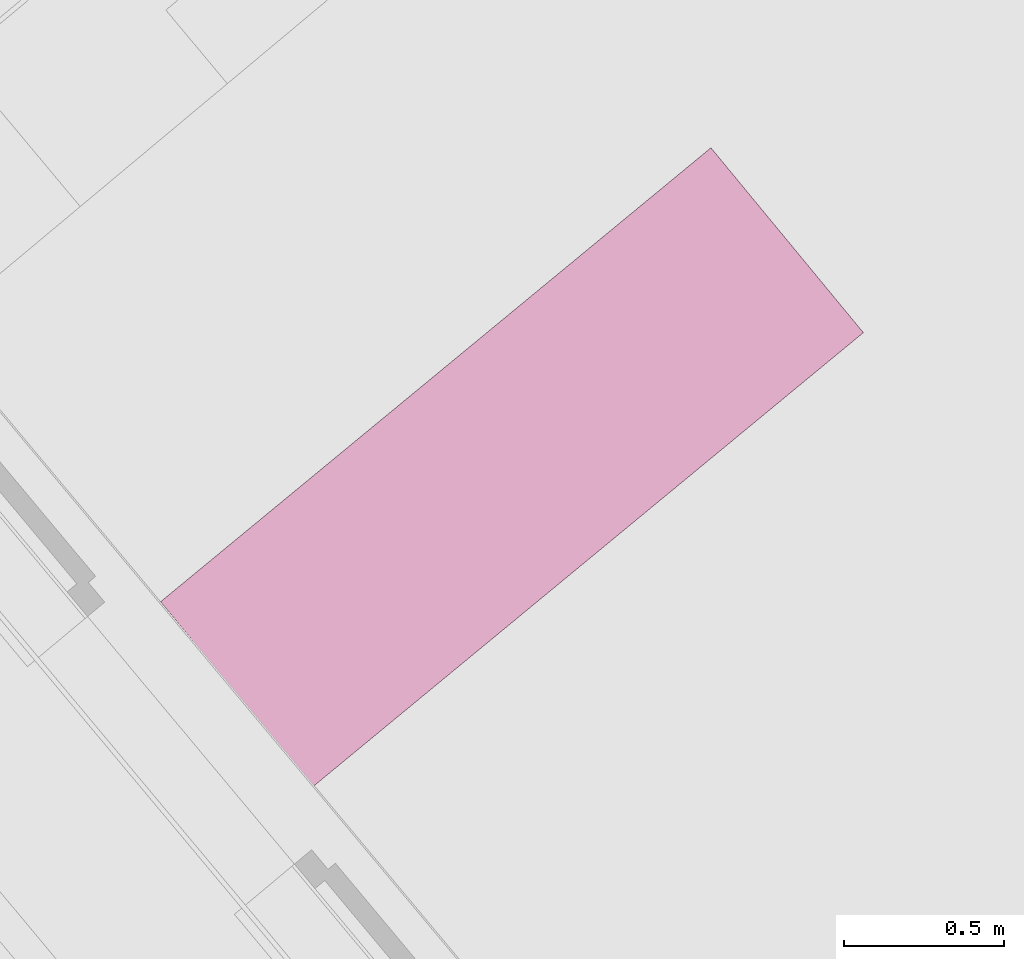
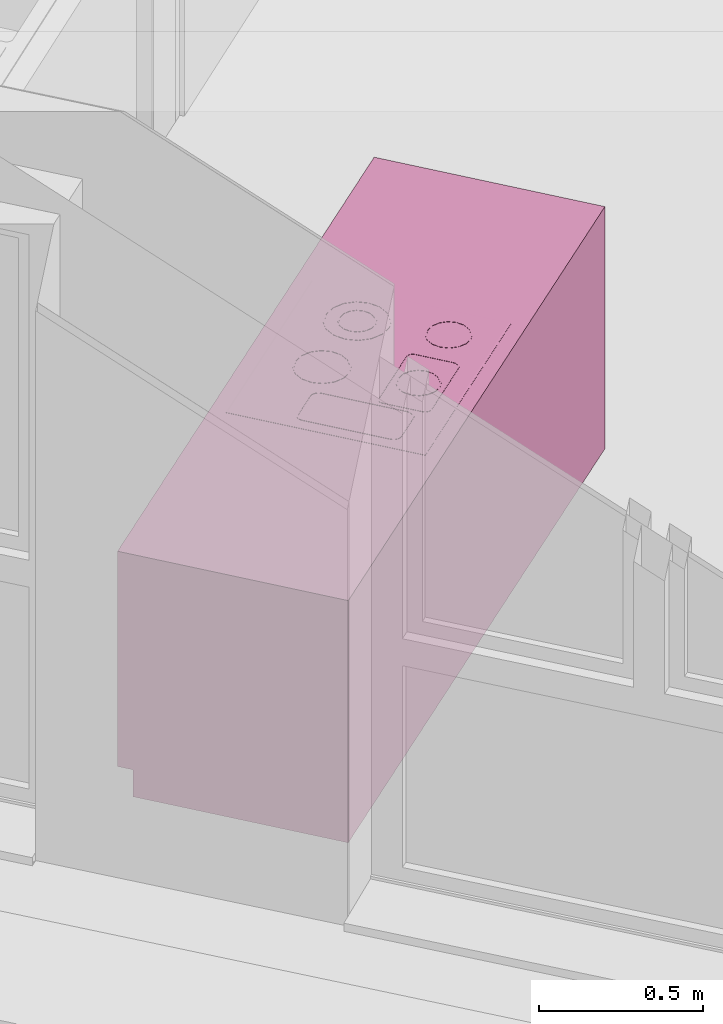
# One storey, part 58 of 61: 1 furniture element.
"""IFC4 building model written with IfcOpenShell, lengths in metres."""

from ifc_helpers import new_model, entity, si_unit, converted_unit, derived_unit, direction, frame, origin_with_axes, place, context, subcontext, project, spatial, polygons, source, transform, mapped, type_object, element, save


model = new_model("IFC4")

# Units and contexts
model_context = context("Model", 3, precision=1e-05, world=origin_with_axes(), true_north=direction((0.0, 1.0)))
body_context = subcontext(model_context, "Body", "Model", "MODEL_VIEW")
ifc_project = project(units=[si_unit("LENGTHUNIT", "METRE"), si_unit("AREAUNIT", "SQUARE_METRE"), si_unit("VOLUMEUNIT", "CUBIC_METRE"), converted_unit("PLANEANGLEUNIT", "DEGREE", entity("IfcPlaneAngleMeasure", 0.0174532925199), si_unit("PLANEANGLEUNIT", "RADIAN"), dimensions=[0, 0, 0, 0, 0, 0, 0]), converted_unit("TIMEUNIT", "Year", entity("IfcTimeMeasure", 31556926.0), si_unit("TIMEUNIT", "SECOND"), dimensions=[0, 0, 1, 0, 0, 0, 0]), si_unit("MASSUNIT", "GRAM", prefix="KILO"), si_unit("THERMODYNAMICTEMPERATUREUNIT", "DEGREE_CELSIUS"), si_unit("LUMINOUSINTENSITYUNIT", "LUMEN"), si_unit("ENERGYUNIT", "JOULE", prefix="MEGA"), derived_unit("THERMALCONDUCTANCEUNIT", [(si_unit("POWERUNIT", "WATT"), 1), (si_unit("LENGTHUNIT", "METRE"), -1), (si_unit("THERMODYNAMICTEMPERATUREUNIT", "KELVIN"), -1)]), derived_unit("SPECIFICHEATCAPACITYUNIT", [(si_unit("ENERGYUNIT", "JOULE"), 1), (si_unit("MASSUNIT", "GRAM", prefix="KILO"), -1), (si_unit("THERMODYNAMICTEMPERATUREUNIT", "KELVIN"), -1)]), derived_unit("MASSDENSITYUNIT", [(si_unit("MASSUNIT", "GRAM", prefix="KILO"), 1), (si_unit("VOLUMEUNIT", "CUBIC_METRE"), -1)])], contexts=[model_context])

# Site, building, storey, space
site_placement = place(None, frame((-0.00153261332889, -0.00661245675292, 0.0), z_axis=(0.0, 0.0, 1.0), x_axis=(1.0, 0.0, 0.0)))
site = spatial("IfcSite", under=ifc_project, at=site_placement, Name="Gelände", CompositionType="ELEMENT")
building_placement = place(site_placement, origin_with_axes())
building = spatial("IfcBuilding", under=site, at=building_placement, Name="Gebäude", CompositionType="ELEMENT")
storey_placement = place(building_placement, frame((0.0, 0.0, 5.7), z_axis=(0.0, 0.0, 1.0), x_axis=(1.0, 0.0, 0.0)))
storey = spatial("IfcBuildingStorey", under=building, at=storey_placement, Name="DG1", CompositionType="ELEMENT", Elevation=5.7)
space_placement = place(storey_placement, frame((-1.20514111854, 10.7241437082, 0.22), z_axis=(0.0, 0.0, 1.0), x_axis=(0.766948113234, 0.641709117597, 0.0)))
space = spatial("IfcSpace", under=storey, at=space_placement, CompositionType="ELEMENT", PredefinedType="NOTDEFINED")

# Furniture
furniture_type = type_object("IfcFurnitureType", Name="Konzeptküche 26", AssemblyPlace="NOTDEFINED", PredefinedType="NOTDEFINED")
shared_shape = source(origin_with_axes(), body_context, "Body", "Tessellation", [
    polygons([(0.451386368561, 0.0111886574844, 0.0), (2.6840690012, -0.00300580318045, 0.0), (2.6840690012, -0.00300580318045, 0.1), (0.451386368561, 0.0111886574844, 0.1), (0.455836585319, 0.711174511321, 0.0), (2.68851921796, 0.696980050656, 0.0), (2.68851921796, 0.696980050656, 0.1), (0.455836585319, 0.711174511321, 0.1)], [[[1, 2, 3, 4]], [[1, 5, 6, 2]], [[2, 6, 7, 3]], [[4, 3, 7, 8]], [[5, 1, 4, 8]], [[6, 5, 8, 7]]], closed=True),
    polygons([(0.451386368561, 0.0111886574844, 0.85), (2.6840690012, -0.00300580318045, 0.85), (2.6840690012, -0.00300580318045, 0.9), (0.451386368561, 0.0111886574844, 0.9), (0.456154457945, 0.76117350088, 0.85), (2.68883709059, 0.746979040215, 0.85), (2.68883709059, 0.746979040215, 0.9), (0.456154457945, 0.76117350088, 0.9)], [[[1, 2, 3, 4]], [[1, 5, 6, 2]], [[2, 6, 7, 3]], [[4, 3, 7, 8]], [[5, 1, 4, 8]], [[6, 5, 8, 7]]], closed=True),
    polygons([(0.451386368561, 0.0111886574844, 0.1), (2.6840690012, -0.00300580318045, 0.1), (2.6840690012, -0.00300580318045, 0.85), (0.451386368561, 0.0111886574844, 0.85), (0.456154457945, 0.76117350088, 0.1), (2.68883709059, 0.746979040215, 0.1), (2.68883709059, 0.746979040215, 0.85), (0.456154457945, 0.76117350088, 0.85)], [[[1, 2, 3, 4]], [[1, 5, 6, 2]], [[2, 6, 7, 3]], [[4, 3, 7, 8]], [[5, 1, 4, 8]], [[6, 5, 8, 7]]], closed=True),
    polygons([(2.01007115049, 0.701293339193, 0.9), (2.00593880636, 0.0513064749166, 0.9), (1.25595396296, 0.0560745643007, 0.9), (1.26008630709, 0.706061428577, 0.9), (2.01007115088, 0.70129333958, 0.9008), (2.00593880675, 0.0513064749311, 0.9008), (1.25595396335, 0.0560745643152, 0.9008), (1.26008630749, 0.706061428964, 0.9008), (2.00322248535, 0.694531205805, 0.901999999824), (1.99917667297, 0.0581551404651, 0.901999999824), (1.26280262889, 0.0628366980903, 0.901999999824), (1.26684844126, 0.69921276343, 0.901999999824)], [[[1, 2, 3, 4]], [[2, 1, 5, 6]], [[3, 2, 6, 7]], [[4, 3, 7, 8]], [[1, 4, 8, 5]], [[6, 5, 9, 10]], [[7, 6, 10, 11]], [[8, 7, 11, 12]], [[5, 8, 12, 9]], [[11, 10, 9, 12]]], closed=True),
    polygons([(1.95268579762, 0.208298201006, 0.902), (1.94734355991, 0.236077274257, 0.902), (1.94734355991, 0.236077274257, 0.903), (1.95268579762, 0.208298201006, 0.903), (1.9469907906, 0.180589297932, 0.902), (1.93112555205, 0.157168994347, 0.902), (1.9075054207, 0.141602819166, 0.902), (1.87972634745, 0.136260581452, 0.902), (1.85201744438, 0.141955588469, 0.902), (1.82859714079, 0.157820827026, 0.902), (1.81303096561, 0.181440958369, 0.902), (1.8076887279, 0.20922003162, 0.902), (1.81338373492, 0.236928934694, 0.902), (1.82924897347, 0.260349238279, 0.902), (1.85286910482, 0.275915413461, 0.902), (1.88064817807, 0.281257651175, 0.902), (1.90835708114, 0.275562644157, 0.902), (1.93177738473, 0.259697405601, 0.902), (1.94768589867, 0.208329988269, 0.902), (1.94271209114, 0.234193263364, 0.902), (1.92821944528, 0.256184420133, 0.902), (1.90641433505, 0.270955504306, 0.902), (1.8806163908, 0.276257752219, 0.902), (1.85475311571, 0.271283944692, 0.902), (1.83276195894, 0.256791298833, 0.902), (1.81799087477, 0.234986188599, 0.902), (1.81268862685, 0.209188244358, 0.902), (1.81766243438, 0.183324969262, 0.902), (1.83215508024, 0.161333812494, 0.902), (1.85396019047, 0.146562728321, 0.902), (1.87975813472, 0.141260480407, 0.902), (1.90562140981, 0.146234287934, 0.902), (1.92761256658, 0.160726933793, 0.902), (1.94238365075, 0.182532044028, 0.902), (1.93177738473, 0.259697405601, 0.903), (1.90835708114, 0.275562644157, 0.903), (1.88064817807, 0.281257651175, 0.903), (1.85286910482, 0.275915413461, 0.903), (1.82924897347, 0.260349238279, 0.903), (1.81338373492, 0.236928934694, 0.903), (1.8076887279, 0.20922003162, 0.903), (1.81303096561, 0.181440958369, 0.903), (1.82859714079, 0.157820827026, 0.903), (1.85201744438, 0.141955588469, 0.903), (1.87972634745, 0.136260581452, 0.903), (1.9075054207, 0.141602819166, 0.903), (1.93112555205, 0.157168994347, 0.903), (1.9469907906, 0.180589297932, 0.903), (1.94768589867, 0.208329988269, 0.903), (1.94238365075, 0.182532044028, 0.903), (1.92761256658, 0.160726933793, 0.903), (1.90562140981, 0.146234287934, 0.903), (1.87975813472, 0.141260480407, 0.903), (1.85396019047, 0.146562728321, 0.903), (1.83215508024, 0.161333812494, 0.903), (1.81766243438, 0.183324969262, 0.903), (1.81268862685, 0.209188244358, 0.903), (1.81799087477, 0.234986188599, 0.903), (1.83276195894, 0.256791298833, 0.903), (1.85475311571, 0.271283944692, 0.903), (1.8806163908, 0.276257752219, 0.903), (1.90641433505, 0.270955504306, 0.903), (1.92821944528, 0.256184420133, 0.903), (1.94271209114, 0.234193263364, 0.903)], [[[1, 2, 3, 4]], [[1, 5, 6, 7, 8, 9, 10, 11, 12, 13, 14, 15, 16, 17, 18, 2], [19, 20, 21, 22, 23, 24, 25, 26, 27, 28, 29, 30, 31, 32, 33, 34]], [[2, 18, 35, 3]], [[4, 3, 35, 36, 37, 38, 39, 40, 41, 42, 43, 44, 45, 46, 47, 48], [49, 50, 51, 52, 53, 54, 55, 56, 57, 58, 59, 60, 61, 62, 63, 64]], [[5, 1, 4, 48]], [[6, 5, 48, 47]], [[7, 6, 47, 46]], [[8, 7, 46, 45]], [[9, 8, 45, 44]], [[10, 9, 44, 43]], [[11, 10, 43, 42]], [[12, 11, 42, 41]], [[13, 12, 41, 40]], [[14, 13, 40, 39]], [[15, 14, 39, 38]], [[16, 15, 38, 37]], [[17, 16, 37, 36]], [[18, 17, 36, 35]], [[20, 19, 49, 64]], [[21, 20, 64, 63]], [[22, 21, 63, 62]], [[23, 22, 62, 61]], [[24, 23, 61, 60]], [[25, 24, 60, 59]], [[26, 25, 59, 58]], [[27, 26, 58, 57]], [[28, 27, 57, 56]], [[29, 28, 56, 55]], [[30, 29, 55, 54]], [[31, 30, 54, 53]], [[32, 31, 53, 52]], [[33, 32, 52, 51]], [[34, 33, 51, 50]], [[19, 34, 50, 49]]], closed=True),
    polygons([(1.9127590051, 0.495207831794, 0.902), (1.90833784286, 0.518197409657, 0.902), (1.90833784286, 0.518197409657, 0.903), (1.9127590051, 0.495207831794, 0.903), (1.90804589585, 0.472276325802, 0.902), (1.89491604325, 0.452894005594, 0.902), (1.87536834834, 0.44001165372, 0.902), (1.85237877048, 0.435590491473, 0.902), (1.82944726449, 0.440303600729, 0.902), (1.81006494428, 0.453433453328, 0.902), (1.7971825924, 0.472981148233, 0.902), (1.79276143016, 0.495970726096, 0.902), (1.79747453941, 0.518902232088, 0.902), (1.81060439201, 0.538284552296, 0.902), (1.83015208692, 0.551166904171, 0.902), (1.85314166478, 0.555588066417, 0.902), (1.87607317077, 0.550874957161, 0.902), (1.89545549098, 0.537745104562, 0.902), (1.90775910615, 0.495239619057, 0.902), (1.90370637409, 0.516313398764, 0.902), (1.89189755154, 0.534232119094, 0.902), (1.87413042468, 0.546267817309, 0.902), (1.85310987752, 0.550588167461, 0.902), (1.83203609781, 0.546535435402, 0.902), (1.81411737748, 0.53472661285, 0.902), (1.80208167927, 0.516959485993, 0.902), (1.79776132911, 0.495938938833, 0.902), (1.80181406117, 0.474865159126, 0.902), (1.81362288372, 0.456946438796, 0.902), (1.83139001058, 0.444910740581, 0.902), (1.85241055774, 0.440590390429, 0.902), (1.87348433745, 0.444643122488, 0.902), (1.89140305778, 0.45645194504, 0.902), (1.90343875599, 0.474219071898, 0.902), (1.89545549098, 0.537745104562, 0.903), (1.87607317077, 0.550874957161, 0.903), (1.85314166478, 0.555588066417, 0.903), (1.83015208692, 0.551166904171, 0.903), (1.81060439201, 0.538284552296, 0.903), (1.79747453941, 0.518902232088, 0.903), (1.79276143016, 0.495970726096, 0.903), (1.7971825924, 0.472981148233, 0.903), (1.81006494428, 0.453433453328, 0.903), (1.82944726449, 0.440303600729, 0.903), (1.85237877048, 0.435590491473, 0.903), (1.87536834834, 0.44001165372, 0.903), (1.89491604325, 0.452894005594, 0.903), (1.90804589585, 0.472276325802, 0.903), (1.90775910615, 0.495239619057, 0.903), (1.90343875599, 0.474219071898, 0.903), (1.89140305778, 0.45645194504, 0.903), (1.87348433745, 0.444643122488, 0.903), (1.85241055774, 0.440590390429, 0.903), (1.83139001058, 0.444910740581, 0.903), (1.81362288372, 0.456946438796, 0.903), (1.80181406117, 0.474865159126, 0.903), (1.79776132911, 0.495938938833, 0.903), (1.80208167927, 0.516959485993, 0.903), (1.81411737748, 0.53472661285, 0.903), (1.83203609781, 0.546535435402, 0.903), (1.85310987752, 0.550588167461, 0.903), (1.87413042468, 0.546267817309, 0.903), (1.89189755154, 0.534232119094, 0.903), (1.90370637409, 0.516313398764, 0.903)], [[[1, 2, 3, 4]], [[1, 5, 6, 7, 8, 9, 10, 11, 12, 13, 14, 15, 16, 17, 18, 2], [19, 20, 21, 22, 23, 24, 25, 26, 27, 28, 29, 30, 31, 32, 33, 34]], [[2, 18, 35, 3]], [[4, 3, 35, 36, 37, 38, 39, 40, 41, 42, 43, 44, 45, 46, 47, 48], [49, 50, 51, 52, 53, 54, 55, 56, 57, 58, 59, 60, 61, 62, 63, 64]], [[5, 1, 4, 48]], [[6, 5, 48, 47]], [[7, 6, 47, 46]], [[8, 7, 46, 45]], [[9, 8, 45, 44]], [[10, 9, 44, 43]], [[11, 10, 43, 42]], [[12, 11, 42, 41]], [[13, 12, 41, 40]], [[14, 13, 40, 39]], [[15, 14, 39, 38]], [[16, 15, 38, 37]], [[17, 16, 37, 36]], [[18, 17, 36, 35]], [[20, 19, 49, 64]], [[21, 20, 64, 63]], [[22, 21, 63, 62]], [[23, 22, 62, 61]], [[24, 23, 61, 60]], [[25, 24, 60, 59]], [[26, 25, 59, 58]], [[27, 26, 58, 57]], [[28, 27, 57, 56]], [[29, 28, 56, 55]], [[30, 29, 55, 54]], [[31, 30, 54, 53]], [[32, 31, 53, 52]], [[33, 32, 52, 51]], [[34, 33, 51, 50]], [[19, 34, 50, 49]]], closed=True),
    polygons([(1.95775809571, 0.494921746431, 0.902), (1.95002106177, 0.535153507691, 0.902), (1.95002106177, 0.535153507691, 0.903), (1.95775809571, 0.494921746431, 0.903), (1.94951015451, 0.454791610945, 0.902), (1.92653291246, 0.420872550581, 0.902), (1.89232444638, 0.3983284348, 0.902), (1.85209268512, 0.39059140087, 0.902), (1.81196254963, 0.398839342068, 0.902), (1.77804348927, 0.421816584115, 0.902), (1.75549937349, 0.456025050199, 0.902), (1.74776233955, 0.496256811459, 0.902), (1.75601028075, 0.536386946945, 0.902), (1.7789875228, 0.57030600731, 0.902), (1.81319598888, 0.59285012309, 0.902), (1.85342775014, 0.60058715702, 0.902), (1.89355788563, 0.592339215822, 0.902), (1.92747694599, 0.569361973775, 0.902), (1.95275819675, 0.494953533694, 0.902), (1.94538959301, 0.533269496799, 0.902), (1.92391900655, 0.565848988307, 0.902), (1.89161513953, 0.587732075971, 0.902), (1.85339596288, 0.595587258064, 0.902), (1.81507999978, 0.588218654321, 0.902), (1.78250050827, 0.566748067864, 0.902), (1.7606174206, 0.53444420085, 0.902), (1.75276223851, 0.496225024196, 0.902), (1.76013084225, 0.457909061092, 0.902), (1.78160142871, 0.425329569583, 0.902), (1.81390529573, 0.403446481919, 0.902), (1.85212447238, 0.395591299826, 0.902), (1.89044043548, 0.402959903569, 0.902), (1.92301992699, 0.424430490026, 0.902), (1.94490301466, 0.456734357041, 0.902), (1.92747694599, 0.569361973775, 0.903), (1.89355788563, 0.592339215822, 0.903), (1.85342775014, 0.60058715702, 0.903), (1.81319598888, 0.59285012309, 0.903), (1.7789875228, 0.57030600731, 0.903), (1.75601028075, 0.536386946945, 0.903), (1.74776233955, 0.496256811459, 0.903), (1.75549937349, 0.456025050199, 0.903), (1.77804348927, 0.421816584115, 0.903), (1.81196254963, 0.398839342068, 0.903), (1.85209268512, 0.39059140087, 0.903), (1.89232444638, 0.3983284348, 0.903), (1.92653291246, 0.420872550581, 0.903), (1.94951015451, 0.454791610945, 0.903), (1.95275819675, 0.494953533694, 0.903), (1.94490301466, 0.456734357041, 0.903), (1.92301992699, 0.424430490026, 0.903), (1.89044043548, 0.402959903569, 0.903), (1.85212447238, 0.395591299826, 0.903), (1.81390529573, 0.403446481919, 0.903), (1.78160142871, 0.425329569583, 0.903), (1.76013084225, 0.457909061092, 0.903), (1.75276223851, 0.496225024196, 0.903), (1.7606174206, 0.53444420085, 0.903), (1.78250050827, 0.566748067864, 0.903), (1.81507999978, 0.588218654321, 0.903), (1.85339596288, 0.595587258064, 0.903), (1.89161513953, 0.587732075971, 0.903), (1.92391900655, 0.565848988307, 0.903), (1.94538959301, 0.533269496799, 0.903)], [[[1, 2, 3, 4]], [[1, 5, 6, 7, 8, 9, 10, 11, 12, 13, 14, 15, 16, 17, 18, 2], [19, 20, 21, 22, 23, 24, 25, 26, 27, 28, 29, 30, 31, 32, 33, 34]], [[2, 18, 35, 3]], [[4, 3, 35, 36, 37, 38, 39, 40, 41, 42, 43, 44, 45, 46, 47, 48], [49, 50, 51, 52, 53, 54, 55, 56, 57, 58, 59, 60, 61, 62, 63, 64]], [[5, 1, 4, 48]], [[6, 5, 48, 47]], [[7, 6, 47, 46]], [[8, 7, 46, 45]], [[9, 8, 45, 44]], [[10, 9, 44, 43]], [[11, 10, 43, 42]], [[12, 11, 42, 41]], [[13, 12, 41, 40]], [[14, 13, 40, 39]], [[15, 14, 39, 38]], [[16, 15, 38, 37]], [[17, 16, 37, 36]], [[18, 17, 36, 35]], [[20, 19, 49, 64]], [[21, 20, 64, 63]], [[22, 21, 63, 62]], [[23, 22, 62, 61]], [[24, 23, 61, 60]], [[25, 24, 60, 59]], [[26, 25, 59, 58]], [[27, 26, 58, 57]], [[28, 27, 57, 56]], [[29, 28, 56, 55]], [[30, 29, 55, 54]], [[31, 30, 54, 53]], [[32, 31, 53, 52]], [[33, 32, 52, 51]], [[34, 33, 51, 50]], [[19, 34, 50, 49]]], closed=True),
    polygons([(1.67867067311, 0.206790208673, 0.902), (1.67351265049, 0.233611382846, 0.902), (1.67351265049, 0.233611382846, 0.903), (1.67867067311, 0.206790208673, 0.903), (1.67317204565, 0.180036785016, 0.902), (1.65785388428, 0.157424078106, 0.902), (1.63504824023, 0.142394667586, 0.902), (1.60822706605, 0.137236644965, 0.902), (1.5814736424, 0.142735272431, 0.902), (1.55886093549, 0.158053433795, 0.902), (1.54383152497, 0.180859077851, 0.902), (1.53867350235, 0.207680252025, 0.902), (1.54417212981, 0.234433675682, 0.902), (1.55949029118, 0.257046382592, 0.902), (1.58229593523, 0.272075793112, 0.902), (1.60911710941, 0.277233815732, 0.902), (1.63587053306, 0.271735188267, 0.902), (1.65848323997, 0.256417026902, 0.902), (1.67367077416, 0.206821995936, 0.902), (1.66888118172, 0.231727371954, 0.902), (1.65492530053, 0.252904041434, 0.902), (1.63392778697, 0.267128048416, 0.902), (1.60908532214, 0.272233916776, 0.902), (1.58417994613, 0.267444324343, 0.902), (1.56300327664, 0.253488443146, 0.902), (1.54877926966, 0.232490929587, 0.902), (1.5436734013, 0.207648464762, 0.902), (1.54846299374, 0.182743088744, 0.902), (1.56241887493, 0.161566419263, 0.902), (1.58341638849, 0.147342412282, 0.902), (1.60825885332, 0.142236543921, 0.902), (1.63316422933, 0.147026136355, 0.902), (1.65434089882, 0.160982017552, 0.902), (1.6685649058, 0.181979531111, 0.902), (1.65848323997, 0.256417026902, 0.903), (1.63587053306, 0.271735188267, 0.903), (1.60911710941, 0.277233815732, 0.903), (1.58229593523, 0.272075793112, 0.903), (1.55949029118, 0.257046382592, 0.903), (1.54417212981, 0.234433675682, 0.903), (1.53867350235, 0.207680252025, 0.903), (1.54383152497, 0.180859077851, 0.903), (1.55886093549, 0.158053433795, 0.903), (1.5814736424, 0.142735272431, 0.903), (1.60822706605, 0.137236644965, 0.903), (1.63504824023, 0.142394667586, 0.903), (1.65785388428, 0.157424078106, 0.903), (1.67317204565, 0.180036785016, 0.903), (1.67367077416, 0.206821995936, 0.903), (1.6685649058, 0.181979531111, 0.903), (1.65434089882, 0.160982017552, 0.903), (1.63316422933, 0.147026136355, 0.903), (1.60825885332, 0.142236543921, 0.903), (1.58341638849, 0.147342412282, 0.903), (1.56241887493, 0.161566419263, 0.903), (1.54846299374, 0.182743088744, 0.903), (1.5436734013, 0.207648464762, 0.903), (1.54877926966, 0.232490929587, 0.903), (1.56300327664, 0.253488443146, 0.903), (1.58417994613, 0.267444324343, 0.903), (1.60908532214, 0.272233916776, 0.903), (1.63392778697, 0.267128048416, 0.903), (1.65492530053, 0.252904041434, 0.903), (1.66888118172, 0.231727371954, 0.903)], [[[1, 2, 3, 4]], [[1, 5, 6, 7, 8, 9, 10, 11, 12, 13, 14, 15, 16, 17, 18, 2], [19, 20, 21, 22, 23, 24, 25, 26, 27, 28, 29, 30, 31, 32, 33, 34]], [[2, 18, 35, 3]], [[4, 3, 35, 36, 37, 38, 39, 40, 41, 42, 43, 44, 45, 46, 47, 48], [49, 50, 51, 52, 53, 54, 55, 56, 57, 58, 59, 60, 61, 62, 63, 64]], [[5, 1, 4, 48]], [[6, 5, 48, 47]], [[7, 6, 47, 46]], [[8, 7, 46, 45]], [[9, 8, 45, 44]], [[10, 9, 44, 43]], [[11, 10, 43, 42]], [[12, 11, 42, 41]], [[13, 12, 41, 40]], [[14, 13, 40, 39]], [[15, 14, 39, 38]], [[16, 15, 38, 37]], [[17, 16, 37, 36]], [[18, 17, 36, 35]], [[20, 19, 49, 64]], [[21, 20, 64, 63]], [[22, 21, 63, 62]], [[23, 22, 62, 61]], [[24, 23, 61, 60]], [[25, 24, 60, 59]], [[26, 25, 59, 58]], [[27, 26, 58, 57]], [[28, 27, 57, 56]], [[29, 28, 56, 55]], [[30, 29, 55, 54]], [[31, 30, 54, 53]], [[32, 31, 53, 52]], [[33, 32, 52, 51]], [[34, 33, 51, 50]], [[19, 34, 50, 49]]], closed=True),
    polygons([(1.67698381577, 0.511657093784, 0.902), (1.6703520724, 0.546141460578, 0.902), (1.6703520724, 0.546141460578, 0.903), (1.67698381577, 0.511657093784, 0.903), (1.66991415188, 0.477259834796, 0.902), (1.65021937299, 0.448186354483, 0.902), (1.62089783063, 0.428862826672, 0.902), (1.58641346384, 0.422231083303, 0.902), (1.55201620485, 0.429300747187, 0.902), (1.52294272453, 0.448995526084, 0.902), (1.50361919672, 0.478317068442, 0.902), (1.49698745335, 0.512801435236, 0.902), (1.50405711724, 0.547198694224, 0.902), (1.52375189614, 0.576272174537, 0.902), (1.55307343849, 0.595595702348, 0.902), (1.58755780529, 0.602227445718, 0.902), (1.62195506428, 0.595157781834, 0.902), (1.65102854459, 0.575463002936, 0.902), (1.67198391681, 0.511688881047, 0.902), (1.66572060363, 0.544257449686, 0.902), (1.64747060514, 0.571950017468, 0.902), (1.62001231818, 0.590550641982, 0.902), (1.58752601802, 0.597227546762, 0.902), (1.55495744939, 0.590964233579, 0.902), (1.5272648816, 0.572714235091, 0.902), (1.50866425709, 0.545255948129, 0.902), (1.50198735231, 0.512769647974, 0.902), (1.50825066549, 0.480201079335, 0.902), (1.52650066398, 0.452508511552, 0.902), (1.55395895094, 0.433907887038, 0.902), (1.5864452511, 0.427230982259, 0.902), (1.61901381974, 0.433494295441, 0.902), (1.64670638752, 0.451744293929, 0.902), (1.66530701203, 0.479202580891, 0.902), (1.65102854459, 0.575463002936, 0.903), (1.62195506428, 0.595157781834, 0.903), (1.58755780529, 0.602227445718, 0.903), (1.55307343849, 0.595595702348, 0.903), (1.52375189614, 0.576272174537, 0.903), (1.50405711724, 0.547198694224, 0.903), (1.49698745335, 0.512801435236, 0.903), (1.50361919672, 0.478317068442, 0.903), (1.52294272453, 0.448995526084, 0.903), (1.55201620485, 0.429300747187, 0.903), (1.58641346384, 0.422231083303, 0.903), (1.62089783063, 0.428862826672, 0.903), (1.65021937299, 0.448186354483, 0.903), (1.66991415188, 0.477259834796, 0.903), (1.67198391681, 0.511688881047, 0.903), (1.66530701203, 0.479202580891, 0.903), (1.64670638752, 0.451744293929, 0.903), (1.61901381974, 0.433494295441, 0.903), (1.5864452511, 0.427230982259, 0.903), (1.55395895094, 0.433907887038, 0.903), (1.52650066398, 0.452508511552, 0.903), (1.50825066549, 0.480201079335, 0.903), (1.50198735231, 0.512769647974, 0.903), (1.50866425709, 0.545255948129, 0.903), (1.5272648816, 0.572714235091, 0.903), (1.55495744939, 0.590964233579, 0.903), (1.58752601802, 0.597227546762, 0.903), (1.62001231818, 0.590550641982, 0.903), (1.64747060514, 0.571950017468, 0.903), (1.66572060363, 0.544257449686, 0.903)], [[[1, 2, 3, 4]], [[1, 5, 6, 7, 8, 9, 10, 11, 12, 13, 14, 15, 16, 17, 18, 2], [19, 20, 21, 22, 23, 24, 25, 26, 27, 28, 29, 30, 31, 32, 33, 34]], [[2, 18, 35, 3]], [[4, 3, 35, 36, 37, 38, 39, 40, 41, 42, 43, 44, 45, 46, 47, 48], [49, 50, 51, 52, 53, 54, 55, 56, 57, 58, 59, 60, 61, 62, 63, 64]], [[5, 1, 4, 48]], [[6, 5, 48, 47]], [[7, 6, 47, 46]], [[8, 7, 46, 45]], [[9, 8, 45, 44]], [[10, 9, 44, 43]], [[11, 10, 43, 42]], [[12, 11, 42, 41]], [[13, 12, 41, 40]], [[14, 13, 40, 39]], [[15, 14, 39, 38]], [[16, 15, 38, 37]], [[17, 16, 37, 36]], [[18, 17, 36, 35]], [[20, 19, 49, 64]], [[21, 20, 64, 63]], [[22, 21, 63, 62]], [[23, 22, 62, 61]], [[24, 23, 61, 60]], [[25, 24, 60, 59]], [[26, 25, 59, 58]], [[27, 26, 58, 57]], [[28, 27, 57, 56]], [[29, 28, 56, 55]], [[30, 29, 55, 54]], [[31, 30, 54, 53]], [[32, 31, 53, 52]], [[33, 32, 52, 51]], [[34, 33, 51, 50]], [[19, 34, 50, 49]]], closed=True),
    polygons([(1.72815115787, 0.294201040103, 0.902), (1.49030841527, 0.295713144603, 0.902), (1.49030841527, 0.295713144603, 0.903), (1.72815115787, 0.294201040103, 0.903), (1.73655937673, 0.292472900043, 0.902), (1.74366622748, 0.287658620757, 0.902), (1.7483897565, 0.280491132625, 0.902), (1.75001084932, 0.272061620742, 0.902), (1.74917517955, 0.140617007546, 0.902), (1.74744703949, 0.132208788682, 0.902), (1.7426327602, 0.125101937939, 0.902), (1.73546527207, 0.120378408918, 0.902), (1.72703576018, 0.118757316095, 0.902), (1.48919301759, 0.120269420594, 0.902), (1.48078479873, 0.121997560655, 0.902), (1.47367794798, 0.126811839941, 0.902), (1.46895441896, 0.133979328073, 0.902), (1.46733332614, 0.142408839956, 0.902), (1.46816899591, 0.273853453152, 0.902), (1.46989713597, 0.282261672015, 0.902), (1.47471141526, 0.289368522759, 0.902), (1.48187890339, 0.294092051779, 0.902), (1.72406760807, 0.123776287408, 0.902), (1.73173080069, 0.125250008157, 0.902), (1.738246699, 0.129544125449, 0.902), (1.74262331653, 0.136004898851, 0.902), (1.74419435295, 0.143648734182, 0.902), (1.74499187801, 0.269093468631, 0.902), (1.74351815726, 0.276756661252, 0.902), (1.73922403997, 0.283272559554, 0.902), (1.73276326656, 0.287649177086, 0.902), (1.72511943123, 0.289220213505, 0.902), (1.49327656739, 0.290694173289, 0.902), (1.48561337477, 0.28922045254, 0.902), (1.47909747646, 0.284926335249, 0.902), (1.47472085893, 0.278465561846, 0.902), (1.47314982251, 0.270821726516, 0.902), (1.47235229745, 0.145376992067, 0.902), (1.4738260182, 0.137713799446, 0.902), (1.47812013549, 0.131197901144, 0.902), (1.4845809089, 0.126821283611, 0.902), (1.49222474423, 0.125250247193, 0.902), (1.48187890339, 0.294092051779, 0.903), (1.47471141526, 0.289368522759, 0.903), (1.46989713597, 0.282261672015, 0.903), (1.46816899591, 0.273853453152, 0.903), (1.46733332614, 0.142408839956, 0.903), (1.46895441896, 0.133979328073, 0.903), (1.47367794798, 0.126811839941, 0.903), (1.48078479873, 0.121997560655, 0.903), (1.48919301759, 0.120269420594, 0.903), (1.72703576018, 0.118757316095, 0.903), (1.73546527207, 0.120378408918, 0.903), (1.7426327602, 0.125101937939, 0.903), (1.74744703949, 0.132208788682, 0.903), (1.74917517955, 0.140617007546, 0.903), (1.75001084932, 0.272061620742, 0.903), (1.7483897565, 0.280491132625, 0.903), (1.74366622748, 0.287658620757, 0.903), (1.73655937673, 0.292472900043, 0.903), (1.72406760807, 0.123776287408, 0.903), (1.49222474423, 0.125250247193, 0.903), (1.4845809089, 0.126821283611, 0.903), (1.47812013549, 0.131197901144, 0.903), (1.4738260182, 0.137713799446, 0.903), (1.47235229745, 0.145376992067, 0.903), (1.47314982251, 0.270821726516, 0.903), (1.47472085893, 0.278465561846, 0.903), (1.47909747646, 0.284926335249, 0.903), (1.48561337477, 0.28922045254, 0.903), (1.49327656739, 0.290694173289, 0.903), (1.72511943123, 0.289220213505, 0.903), (1.73276326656, 0.287649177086, 0.903), (1.73922403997, 0.283272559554, 0.903), (1.74351815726, 0.276756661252, 0.903), (1.74499187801, 0.269093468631, 0.903), (1.74419435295, 0.143648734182, 0.903), (1.74262331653, 0.136004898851, 0.903), (1.738246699, 0.129544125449, 0.903), (1.73173080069, 0.125250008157, 0.903)], [[[1, 2, 3, 4]], [[1, 5, 6, 7, 8, 9, 10, 11, 12, 13, 14, 15, 16, 17, 18, 19, 20, 21, 22, 2], [23, 24, 25, 26, 27, 28, 29, 30, 31, 32, 33, 34, 35, 36, 37, 38, 39, 40, 41, 42]], [[2, 22, 43, 3]], [[4, 3, 43, 44, 45, 46, 47, 48, 49, 50, 51, 52, 53, 54, 55, 56, 57, 58, 59, 60], [61, 62, 63, 64, 65, 66, 67, 68, 69, 70, 71, 72, 73, 74, 75, 76, 77, 78, 79, 80]], [[5, 1, 4, 60]], [[6, 5, 60, 59]], [[7, 6, 59, 58]], [[8, 7, 58, 57]], [[9, 8, 57, 56]], [[10, 9, 56, 55]], [[11, 10, 55, 54]], [[12, 11, 54, 53]], [[13, 12, 53, 52]], [[14, 13, 52, 51]], [[15, 14, 51, 50]], [[16, 15, 50, 49]], [[17, 16, 49, 48]], [[18, 17, 48, 47]], [[19, 18, 47, 46]], [[20, 19, 46, 45]], [[21, 20, 45, 44]], [[22, 21, 44, 43]], [[24, 23, 61, 80]], [[25, 24, 80, 79]], [[26, 25, 79, 78]], [[27, 26, 78, 77]], [[28, 27, 77, 76]], [[29, 28, 76, 75]], [[30, 29, 75, 74]], [[31, 30, 74, 73]], [[32, 31, 73, 72]], [[33, 32, 72, 71]], [[34, 33, 71, 70]], [[35, 34, 70, 69]], [[36, 35, 69, 68]], [[37, 36, 68, 67]], [[38, 37, 67, 66]], [[39, 38, 66, 65]], [[40, 39, 65, 64]], [[41, 40, 64, 63]], [[42, 41, 63, 62]], [[23, 42, 62, 61]]], closed=True),
    polygons([(1.45676176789, 0.182500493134, 0.902), (1.45859271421, 0.470494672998, 0.902), (1.45859271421, 0.470494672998, 0.903), (1.45676176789, 0.182500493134, 0.903), (1.45471942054, 0.172563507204, 0.902), (1.44902981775, 0.16416450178, 0.902), (1.44055914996, 0.158582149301, 0.902), (1.43059699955, 0.156666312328, 0.902), (1.3225991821, 0.157352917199, 0.902), (1.31266219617, 0.159395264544, 0.902), (1.30426319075, 0.165084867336, 0.902), (1.29868083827, 0.173555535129, 0.902), (1.2967650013, 0.183517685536, 0.902), (1.29859594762, 0.4715118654, 0.902), (1.30063829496, 0.48144885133, 0.902), (1.30632789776, 0.489847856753, 0.902), (1.31479856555, 0.495430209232, 0.902), (1.32476071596, 0.497346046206, 0.902), (1.4327585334, 0.496659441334, 0.902), (1.44269551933, 0.49461709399, 0.902), (1.45109452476, 0.488927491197, 0.902), (1.45667687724, 0.480456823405, 0.902), (1.42562888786, 0.161697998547, 0.902), (1.43559103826, 0.16361383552, 0.902), (1.44406170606, 0.169196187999, 0.902), (1.44975130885, 0.177595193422, 0.902), (1.45179365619, 0.187532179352, 0.902), (1.45356102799, 0.465526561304, 0.902), (1.45164519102, 0.475488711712, 0.902), (1.44606283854, 0.483959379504, 0.902), (1.43766383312, 0.489648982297, 0.902), (1.42772684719, 0.491691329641, 0.902), (1.32972882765, 0.492314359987, 0.902), (1.31976667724, 0.490398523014, 0.902), (1.31129600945, 0.484816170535, 0.902), (1.30560640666, 0.476417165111, 0.902), (1.30356405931, 0.466480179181, 0.902), (1.30179668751, 0.188485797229, 0.902), (1.30371252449, 0.178523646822, 0.902), (1.30929487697, 0.17005297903, 0.902), (1.31769388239, 0.164363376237, 0.902), (1.32763086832, 0.162321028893, 0.902), (1.45667687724, 0.480456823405, 0.903), (1.45109452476, 0.488927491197, 0.903), (1.44269551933, 0.49461709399, 0.903), (1.4327585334, 0.496659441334, 0.903), (1.32476071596, 0.497346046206, 0.903), (1.31479856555, 0.495430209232, 0.903), (1.30632789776, 0.489847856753, 0.903), (1.30063829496, 0.48144885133, 0.903), (1.29859594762, 0.4715118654, 0.903), (1.2967650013, 0.183517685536, 0.903), (1.29868083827, 0.173555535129, 0.903), (1.30426319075, 0.165084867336, 0.903), (1.31266219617, 0.159395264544, 0.903), (1.3225991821, 0.157352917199, 0.903), (1.43059699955, 0.156666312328, 0.903), (1.44055914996, 0.158582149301, 0.903), (1.44902981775, 0.16416450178, 0.903), (1.45471942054, 0.172563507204, 0.903), (1.42562888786, 0.161697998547, 0.903), (1.32763086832, 0.162321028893, 0.903), (1.31769388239, 0.164363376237, 0.903), (1.30929487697, 0.17005297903, 0.903), (1.30371252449, 0.178523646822, 0.903), (1.30179668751, 0.188485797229, 0.903), (1.30356405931, 0.466480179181, 0.903), (1.30560640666, 0.476417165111, 0.903), (1.31129600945, 0.484816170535, 0.903), (1.31976667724, 0.490398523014, 0.903), (1.32972882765, 0.492314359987, 0.903), (1.42772684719, 0.491691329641, 0.903), (1.43766383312, 0.489648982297, 0.903), (1.44606283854, 0.483959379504, 0.903), (1.45164519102, 0.475488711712, 0.903), (1.45356102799, 0.465526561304, 0.903), (1.45179365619, 0.187532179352, 0.903), (1.44975130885, 0.177595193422, 0.903), (1.44406170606, 0.169196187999, 0.903), (1.43559103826, 0.16361383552, 0.903)], [[[1, 2, 3, 4]], [[1, 5, 6, 7, 8, 9, 10, 11, 12, 13, 14, 15, 16, 17, 18, 19, 20, 21, 22, 2], [23, 24, 25, 26, 27, 28, 29, 30, 31, 32, 33, 34, 35, 36, 37, 38, 39, 40, 41, 42]], [[2, 22, 43, 3]], [[4, 3, 43, 44, 45, 46, 47, 48, 49, 50, 51, 52, 53, 54, 55, 56, 57, 58, 59, 60], [61, 62, 63, 64, 65, 66, 67, 68, 69, 70, 71, 72, 73, 74, 75, 76, 77, 78, 79, 80]], [[5, 1, 4, 60]], [[6, 5, 60, 59]], [[7, 6, 59, 58]], [[8, 7, 58, 57]], [[9, 8, 57, 56]], [[10, 9, 56, 55]], [[11, 10, 55, 54]], [[12, 11, 54, 53]], [[13, 12, 53, 52]], [[14, 13, 52, 51]], [[15, 14, 51, 50]], [[16, 15, 50, 49]], [[17, 16, 49, 48]], [[18, 17, 48, 47]], [[19, 18, 47, 46]], [[20, 19, 46, 45]], [[21, 20, 45, 44]], [[22, 21, 44, 43]], [[24, 23, 61, 80]], [[25, 24, 80, 79]], [[26, 25, 79, 78]], [[27, 26, 78, 77]], [[28, 27, 77, 76]], [[29, 28, 76, 75]], [[30, 29, 75, 74]], [[31, 30, 74, 73]], [[32, 31, 73, 72]], [[33, 32, 72, 71]], [[34, 33, 71, 70]], [[35, 34, 70, 69]], [[36, 35, 69, 68]], [[37, 36, 68, 67]], [[38, 37, 67, 66]], [[39, 38, 66, 65]], [[40, 39, 65, 64]], [[41, 40, 64, 63]], [[42, 41, 63, 62]], [[23, 42, 62, 61]]], closed=True),
])
furniture_placement = place(space_placement, frame((-0.454023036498, 3.27305569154, 0.0), z_axis=(0.0, 0.0, 1.0), x_axis=(0.999999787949, -0.000651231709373, 0.0)))
element("IfcFurniture", 1, at=furniture_placement, inside=space, type_object=furniture_type, Name="Objekt-0002", PredefinedType="NOTDEFINED", context=body_context, shape_type="MappedRepresentation", body=[
    mapped(shared_shape, transform((0.0, 0.0, 0.0))),
])

save(model, "model.ifc")
